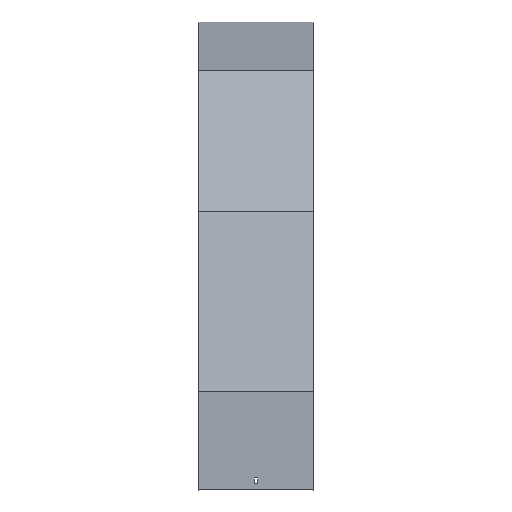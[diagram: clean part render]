
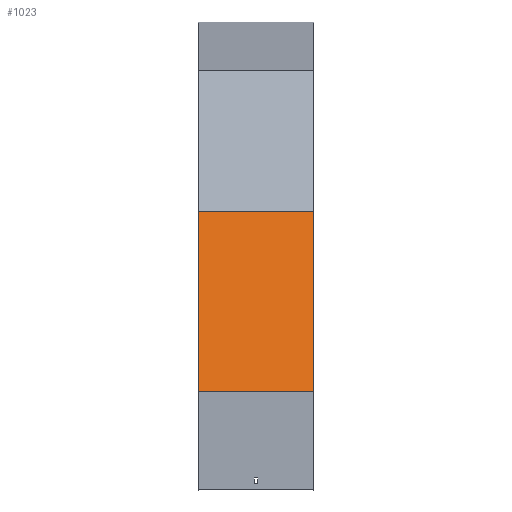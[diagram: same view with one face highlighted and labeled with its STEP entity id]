
A CAD part, top view. The second image highlights one B-rep face of the part: STEP entity #1023.
In plain terms, the highlighted planar face has unit normal (0, 0.259, 0.966).
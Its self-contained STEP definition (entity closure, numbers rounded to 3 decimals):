
#17 = CARTESIAN_POINT ( 'NONE',  ( -101.5, -311.92, 735.771 ) ) ;
#23 = DIRECTION ( 'NONE',  ( -1., 0., 0. ) ) ;
#42 = ORIENTED_EDGE ( 'NONE', *, *, #498, .F. ) ;
#88 = EDGE_CURVE ( 'NONE', #703, #701, #970, .T. ) ;
#141 = DIRECTION ( 'NONE',  ( 0., -0.966, 0.259 ) ) ;
#196 = PLANE ( 'NONE',  #259 ) ;
#252 = CARTESIAN_POINT ( 'NONE',  ( 101.5, -311.92, 735.771 ) ) ;
#259 = AXIS2_PLACEMENT_3D ( 'NONE', #1037, #608, #454 ) ;
#313 = VERTEX_POINT ( 'NONE', #692 ) ;
#330 = VERTEX_POINT ( 'NONE', #17 ) ;
#331 = DIRECTION ( 'NONE',  ( -1., 0., 0. ) ) ;
#348 = ORIENTED_EDGE ( 'NONE', *, *, #405, .T. ) ;
#405 = EDGE_CURVE ( 'NONE', #330, #313, #1068, .T. ) ;
#416 = LINE ( 'NONE', #746, #519 ) ;
#419 = CARTESIAN_POINT ( 'NONE',  ( 101.5, -317.096, 737.158 ) ) ;
#439 = VECTOR ( 'NONE', #141, 1000. ) ;
#454 = DIRECTION ( 'NONE',  ( 0., 0.966, -0.259 ) ) ;
#457 = LINE ( 'NONE', #787, #1118 ) ;
#498 = EDGE_CURVE ( 'NONE', #701, #313, #457, .T. ) ;
#519 = VECTOR ( 'NONE', #331, 1000. ) ;
#521 = VECTOR ( 'NONE', #1069, 1000. ) ;
#545 = ORIENTED_EDGE ( 'NONE', *, *, #858, .T. ) ;
#608 = DIRECTION ( 'NONE',  ( 0., -0.259, -0.966 ) ) ;
#641 = CARTESIAN_POINT ( 'NONE',  ( -101.5, -317.096, 737.158 ) ) ;
#661 = ORIENTED_EDGE ( 'NONE', *, *, #88, .F. ) ;
#692 = CARTESIAN_POINT ( 'NONE',  ( -101.5, -627.77, 820.403 ) ) ;
#701 = VERTEX_POINT ( 'NONE', #771 ) ;
#703 = VERTEX_POINT ( 'NONE', #252 ) ;
#746 = CARTESIAN_POINT ( 'NONE',  ( 101.5, -311.92, 735.771 ) ) ;
#771 = CARTESIAN_POINT ( 'NONE',  ( 101.5, -627.77, 820.403 ) ) ;
#787 = CARTESIAN_POINT ( 'NONE',  ( 101.5, -627.77, 820.403 ) ) ;
#858 = EDGE_CURVE ( 'NONE', #703, #330, #416, .T. ) ;
#896 = EDGE_LOOP ( 'NONE', ( #348, #42, #661, #545 ) ) ;
#970 = LINE ( 'NONE', #419, #521 ) ;
#1023 = ADVANCED_FACE ( 'NONE', ( #1047 ), #196, .F. ) ;
#1037 = CARTESIAN_POINT ( 'NONE',  ( 101.5, -317.096, 737.158 ) ) ;
#1047 = FACE_OUTER_BOUND ( 'NONE', #896, .T. ) ;
#1068 = LINE ( 'NONE', #641, #439 ) ;
#1069 = DIRECTION ( 'NONE',  ( 0., -0.966, 0.259 ) ) ;
#1118 = VECTOR ( 'NONE', #23, 1000. ) ;
